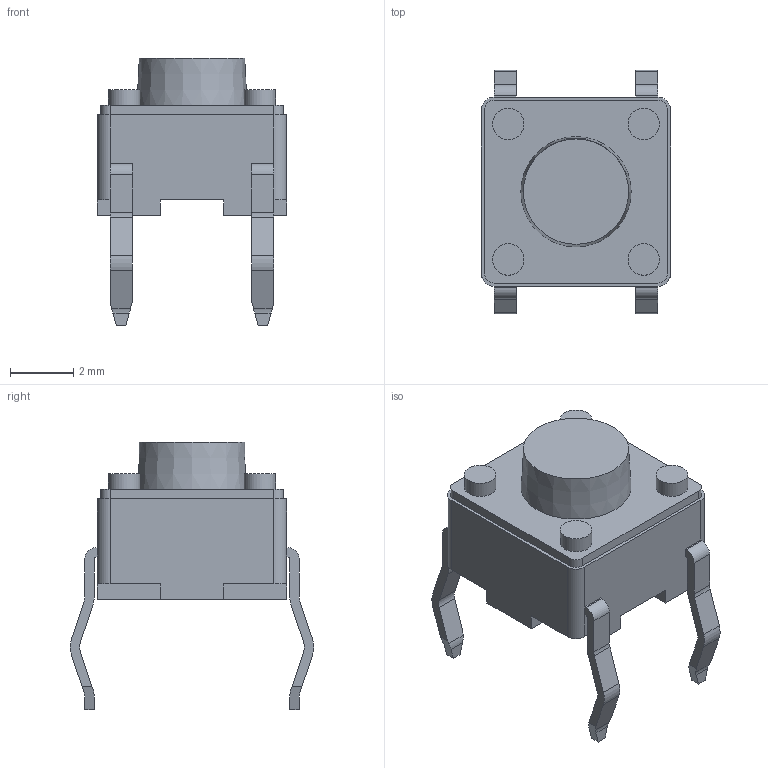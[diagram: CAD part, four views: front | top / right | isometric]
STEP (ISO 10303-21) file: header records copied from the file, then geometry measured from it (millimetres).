
FILE_DESCRIPTION(('STEP AP214'), '1');
FILE_NAME('button_hole_6x6xH', '2019-07-26T18:53:19', ('Che'), (''), 'ASCON STEP Converter 1.3', 'ASCON Math Kernel', '');
FILE_SCHEMA(('AUTOMOTIVE_DESIGN { 1 0 10303 214 3 1 1}'));
Length unit declared in the file: millimetre
Bounding box: 6 x 7.74 x 8.5 mm (x, y, z)
Volume: 134.5 mm3; surface area: 219.9 mm2
Topology: 1 solids, 1 shells, 137 faces, 379 edges, 250 vertices
Faces by surface type: plane 92, cylinder 44, cone 1
Full cylindrical faces by diameter (mm): 1 x4
Entity records: 5458 total; most frequent: CARTESIAN_POINT 810, ORIENTED_EDGE 748, DIRECTION 708, EDGE_CURVE 374, LINE 284, VECTOR 284, VERTEX_POINT 250, AXIS2_PLACEMENT_3D 212
